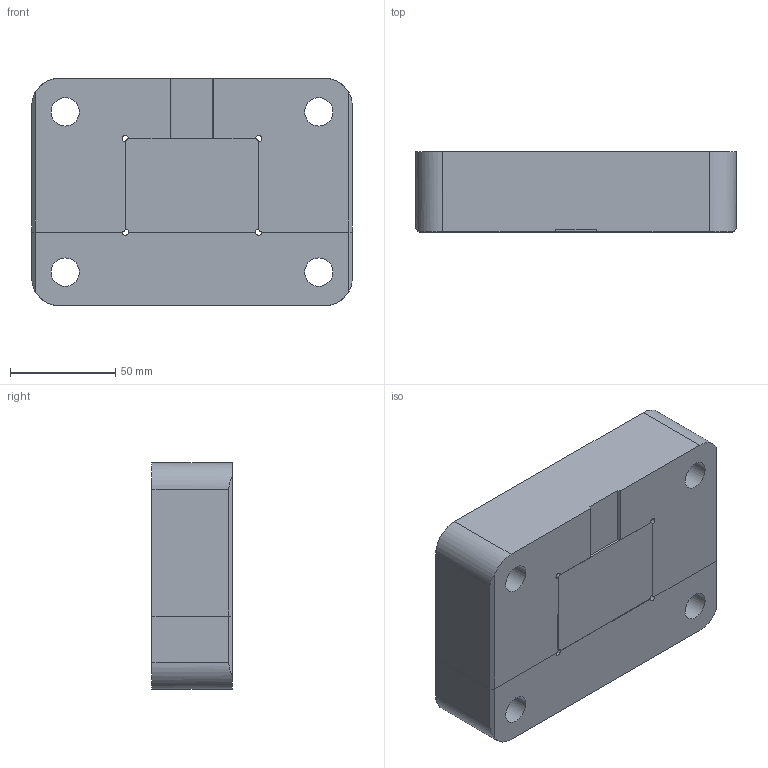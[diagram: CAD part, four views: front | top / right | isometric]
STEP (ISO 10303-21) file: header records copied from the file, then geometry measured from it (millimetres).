
FILE_DESCRIPTION(/* description */ ('STEP AP214'),/* implementation_level */ '2;1');
FILE_NAME(/* name */ 'BGS6000',/* time_stamp */ '2024-12-19T08:05:13+01:00',/* author */ ('License CC BY-ND 4.0'),/* organization */ ('CADENAS'),/* preprocessor_version */ 'ST-DEVELOPER v19.3',/* originating_system */ 'PARTsolutions',/* authorisation */ ' ');
FILE_SCHEMA (('AUTOMOTIVE_DESIGN {1 0 10303 214 3 1 1}'));
Length unit declared in the file: millimetre
Products named in the file (3): BGS6000; BGS6000M; BGS6000F
Assembly tree (2 placements, depth 2):
  BGS6000
    BGS6000M
    BGS6000F
Bounding box: 152.4 x 38.1 x 107.95 mm (x, y, z)
Volume: 584505.5 mm3; surface area: 76984.2 mm2
Topology: 2 solids, 2 shells, 54 faces, 138 edges, 92 vertices
Faces by surface type: plane 34, cylinder 20
Full cylindrical faces by diameter (mm): 13.462 x4, 22.225 x4
Entity records: 1700 total; most frequent: DIRECTION 290, CARTESIAN_POINT 279, ORIENTED_EDGE 260, EDGE_CURVE 130, AXIS2_PLACEMENT_3D 103, VERTEX_POINT 92, LINE 84, VECTOR 84
